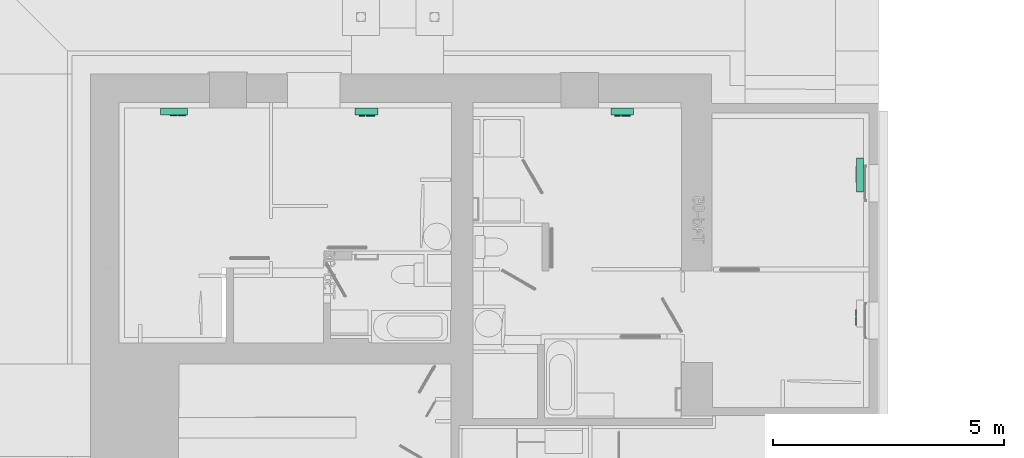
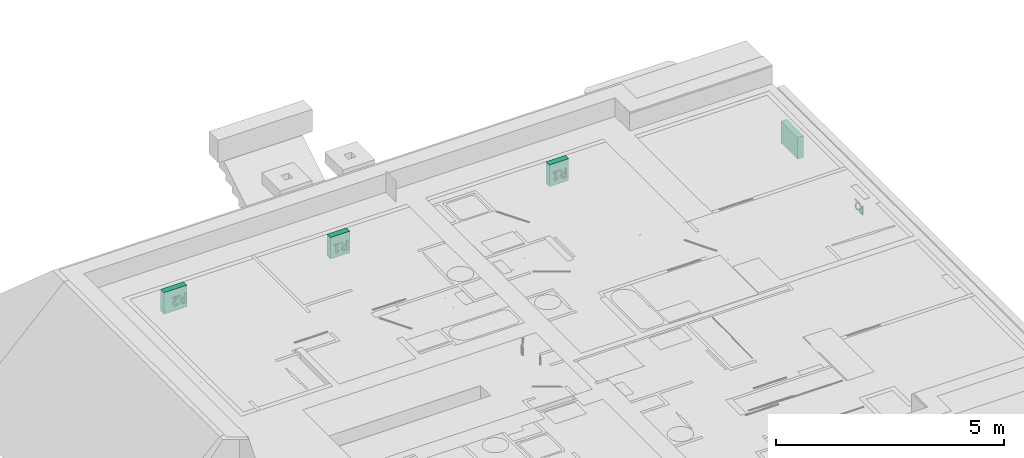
# Not in any storey, part 5 of 22: 8 distribution flow elements.
"""IFC4 model written with IfcOpenShell, lengths in metres."""

import ifcopenshell
import ifcopenshell.guid

model = None  # the IFC model being written
_history = None  # IfcOwnerHistory: only IFC2X3 demands one
_inside = {}  # id of a spatial element -> (the spatial element, [elements in it])
_under = {}  # id of a project, library or spatial element -> (it, [spatial elements below it])
_declared = {}  # id of a project -> (the project, [libraries it declares])
_typed = {}  # id of a type object -> (the type object, [elements of that type])
_made_of = {}  # id of a material, layer set ... -> (it, [elements and type objects made of it])


def new_model(schema):
    """Start an empty IFC model of exactly this schema.

    Asked for "IFC4X3", IfcOpenShell would pick the latest addendum, in which some entities
    have other attributes; the version numbers below select the first issue.
    IFC2X3 requires an IfcOwnerHistory on every rooted entity: one is made here for all.
    """
    global model, _history
    if schema == "IFC4X3":
        model = ifcopenshell.file(schema_version=(4, 3, 0, 0))
    else:
        model = ifcopenshell.file(schema=schema)
    _inside.clear()
    _under.clear()
    _declared.clear()
    _typed.clear()
    _made_of.clear()
    _history = None
    if model.schema == "IFC2X3":
        org = make("IfcOrganization", Name="unknown")
        user = make(
            "IfcPersonAndOrganization",
            ThePerson=make("IfcPerson", FamilyName="unknown"),
            TheOrganization=org,
        )
        app = make(
            "IfcApplication",
            ApplicationDeveloper=org,
            Version="unknown",
            ApplicationFullName="unknown",
            ApplicationIdentifier="unknown",
        )
        _history = make(
            "IfcOwnerHistory",
            OwningUser=user,
            OwningApplication=app,
            ChangeAction="ADDED",
            CreationDate=0,
        )
    return model


def make(cls, **values):
    """One entity of the class cls with the attributes given. An attribute that is None is left unset."""
    return model.create_entity(
        cls, **{name: value for name, value in values.items() if value is not None}
    )


def rooted(cls, **values):
    """An entity with a GlobalId (a new one), such as an element, a storey or a relation."""
    return make(cls, GlobalId=ifcopenshell.guid.new(), OwnerHistory=_history, **values)


def si_unit(unit_type, name, prefix=None):
    """IfcSIUnit, for example si_unit("LENGTHUNIT", "METRE", prefix="MILLI")."""
    return make("IfcSIUnit", UnitType=unit_type, Prefix=prefix, Name=name)


def assignment(units):
    """IfcUnitAssignment: the units of a project."""
    return None if units is None else make("IfcUnitAssignment", Units=units)


def point(xyz):
    """IfcCartesianPoint."""
    return None if xyz is None else make("IfcCartesianPoint", Coordinates=xyz)


def direction(xyz):
    """IfcDirection."""
    return None if xyz is None else make("IfcDirection", DirectionRatios=xyz)


def frame(location, z_axis=None, x_axis=None):
    """IfcAxis2Placement3D, a coordinate frame: its origin and axes. An axis left out is left unset."""
    return make(
        "IfcAxis2Placement3D",
        Location=point(location),
        Axis=direction(z_axis),
        RefDirection=direction(x_axis),
    )


def origin_with_axes():
    """The frame at (0, 0, 0) with the z axis (0, 0, 1) and the x axis (1, 0, 0) written out."""
    return frame((0.0, 0.0, 0.0), z_axis=(0.0, 0.0, 1.0), x_axis=(1.0, 0.0, 0.0))


def place(relative_to, where):
    """IfcLocalPlacement: puts the frame where relative to a parent placement (None: the world)."""
    return make(
        "IfcLocalPlacement", PlacementRelTo=relative_to, RelativePlacement=where
    )


def context(
    kind, dimensions, precision=None, world=None, true_north=None, identifier=None
):
    """IfcGeometricRepresentationContext, for example the 3D "Model" context."""
    return make(
        "IfcGeometricRepresentationContext",
        ContextIdentifier=identifier,
        ContextType=kind,
        CoordinateSpaceDimension=dimensions,
        Precision=precision,
        WorldCoordinateSystem=world,
        TrueNorth=true_north,
    )


def subcontext(parent, identifier, kind, view, scale=None):
    """IfcGeometricRepresentationSubContext, for example "Body" below "Model"."""
    return make(
        "IfcGeometricRepresentationSubContext",
        ContextIdentifier=identifier,
        ContextType=kind,
        ParentContext=parent,
        TargetScale=scale,
        TargetView=view,
    )


def project(units=None, contexts=None):
    """IfcProject with its units and contexts."""
    return rooted(
        "IfcProject",
        Name="project",
        RepresentationContexts=contexts,
        UnitsInContext=assignment(units),
    )


def faces_of(points, faces, orient=None, outer=None):
    """IfcFace entities. A face is a list of loops; a loop is a list of indices into points, from 0.

    orient and outer hold one flag for each loop. By default every Orientation is true, the
    first loop of a face is its IfcFaceOuterBound and the others are IfcFaceBound.
    """
    made = []
    for i, loops in enumerate(faces):
        bounds = []
        for j, loop in enumerate(loops):
            is_outer = j == 0 if outer is None else outer[i][j]
            bounds.append(
                make(
                    "IfcFaceOuterBound" if is_outer else "IfcFaceBound",
                    Bound=make("IfcPolyLoop", Polygon=[points[k] for k in loop]),
                    Orientation=True if orient is None else orient[i][j],
                )
            )
        made.append(make("IfcFace", Bounds=bounds))
    return made


def faceted_brep(points, faces, orient=None, outer=None, voids=None):
    """IfcFacetedBrep: a solid bounded by flat faces; with voids (closed shells), ...WithVoids."""
    shared = [point(p) for p in points]
    hull = make("IfcClosedShell", CfsFaces=faces_of(shared, faces, orient, outer))
    if voids is None:
        return make("IfcFacetedBrep", Outer=hull)
    return make(
        "IfcFacetedBrepWithVoids",
        Outer=hull,
        Voids=[
            make(cls, CfsFaces=faces_of(shared, fs, o, b)) for cls, fs, o, b in voids
        ],
    )


def shape(context_of_items, identifier, shape_type, items):
    """IfcShapeRepresentation: the items that make up one representation, for example the "Body"."""
    return make(
        "IfcShapeRepresentation",
        ContextOfItems=context_of_items,
        RepresentationIdentifier=identifier,
        RepresentationType=shape_type,
        Items=items,
    )


def made_of(thing, what):
    """Note that an element or type object is made of a material, layer set ...; save() writes the relation."""
    if what is not None:
        _made_of.setdefault(what.id(), (what, []))[1].append(thing)
    return thing


def element(
    cls,
    number,
    at=None,
    inside=None,
    cuts=None,
    type_object=None,
    material=None,
    context=None,
    identifier="Body",
    shape_type=None,
    held_by="IfcProductDefinitionShape",
    body=None,
    shapes=None,
    **own,
):
    """One element of the class cls, such as IfcWall. Its Tag is "e" and its number.

    at: its placement. inside: the storey or other place that contains it. cuts: it is an
    opening in that element (IfcRelVoidsElement). A single representation is given by context,
    identifier, shape_type and body (its items); several are given by shapes. held_by: the class
    of the entity that holds the representations. save() writes the other relations.
    """
    e = rooted(cls, Tag="e%d" % number, ObjectPlacement=at, **own)
    if body is not None:
        shapes = [shape(context, identifier, shape_type, body)]
    if shapes is not None:
        e.Representation = make(held_by, Representations=shapes)
    if inside is not None:
        _inside.setdefault(inside.id(), (inside, []))[1].append(e)
    if cuts is not None:
        rooted(
            "IfcRelVoidsElement", RelatingBuildingElement=cuts, RelatedOpeningElement=e
        )
    if type_object is not None:
        _typed.setdefault(type_object.id(), (type_object, []))[1].append(e)
    return made_of(e, material)


def aggregate(whole, parts):
    """IfcRelAggregates: a whole, such as a stair, and the parts it consists of."""
    return rooted("IfcRelAggregates", RelatingObject=whole, RelatedObjects=parts)


def save(model, path):
    """Write the relations noted so far, then the file.

    IfcRelAggregates (storeys below a building ...), IfcRelContainedInSpatialStructure (elements
    in a storey), IfcRelDefinesByType, IfcRelAssociatesMaterial and IfcRelDeclares: one each for
    every whole, place, type object, material and project.
    """
    for whole, parts in _under.values():
        aggregate(whole, parts)
    for where, things in _inside.values():
        rooted(
            "IfcRelContainedInSpatialStructure",
            RelatedElements=things,
            RelatingStructure=where,
        )
    for kind, things in _typed.values():
        rooted("IfcRelDefinesByType", RelatedObjects=things, RelatingType=kind)
    for what, things in _made_of.values():
        rooted("IfcRelAssociatesMaterial", RelatedObjects=things, RelatingMaterial=what)
    for by, libraries in _declared.values():
        rooted("IfcRelDeclares", RelatingContext=by, RelatedDefinitions=libraries)
    model.write(path)


model = new_model("IFC4")

# Units and contexts
model_context = context("Model", 3, precision=1e-05, world=origin_with_axes(), true_north=direction((1.0, 0.0)))
body_context = subcontext(model_context, "Body", "Model", "MODEL_VIEW")
ifc_project = project(units=[si_unit("LENGTHUNIT", "METRE"), si_unit("AREAUNIT", "SQUARE_METRE"), si_unit("VOLUMEUNIT", "CUBIC_METRE"), si_unit("MASSUNIT", "GRAM", prefix="KILO"), si_unit("TIMEUNIT", "SECOND"), si_unit("PLANEANGLEUNIT", "RADIAN"), si_unit("SOLIDANGLEUNIT", "STERADIAN")], contexts=[model_context])

# Distribution flow elements
placement = place(None, origin_with_axes())
element("IfcDistributionFlowElement", 1, at=placement, Name="R2", context=body_context, shape_type="AdvancedBrep", body=[
    faceted_brep([(156.869378, 24.88738, 2.114441), (156.869378, 24.845696, 2.114441), (156.869378, 24.769139, 2.01842), (156.869378, 24.732483, 2.01842), (156.869378, 24.732483, 2.114441), (156.869378, 24.700368, 2.114441), (156.869378, 24.700368, 1.87293), (156.869378, 24.762651, 1.87293), (156.869378, 24.797442, 1.875201), (156.869378, 24.811128, 1.878972), (156.869378, 24.824124, 1.885743), (156.869378, 24.835457, 1.895029), (156.869378, 24.844155, 1.906667), (156.869378, 24.84969, 1.921021), (156.869378, 24.851535, 1.938457), (156.869378, 24.848169, 1.962868), (156.869378, 24.843962, 1.973431), (156.869378, 24.838073, 1.982899), (156.869378, 24.822177, 1.99843), (156.869378, 24.801416, 2.009337), (156.869378, 24.81796, 1.94089), (156.869378, 24.817028, 1.930936), (156.869378, 24.81423, 1.922157), (156.869378, 24.809485, 1.914716), (156.869378, 24.802714, 1.908775), (156.869378, 24.786818, 1.902369), (156.869378, 24.764273, 1.900503), (156.869378, 24.732483, 1.900503), (156.869378, 24.732483, 1.991658), (156.869378, 24.760705, 1.991658), (156.869378, 24.785521, 1.989225), (156.869378, 24.795739, 1.985494), (156.869378, 24.804336, 1.979169), (156.869378, 24.810398, 1.971708), (156.869378, 24.814635, 1.962949), (156.869378, 25.048766, 2.114441), (156.869378, 24.899707, 2.114441), (156.869378, 24.899707, 2.080542), (156.869378, 24.930038, 2.051346), (156.869378, 24.957936, 2.022313), (156.869378, 24.98113, 1.995003), (156.869378, 24.995566, 1.973735), (156.869378, 25.003108, 1.955184), (156.869378, 25.005622, 1.936024), (156.869378, 25.002459, 1.918345), (156.869378, 24.993781, 1.905694), (156.869378, 24.980643, 1.898395), (156.869378, 24.964262, 1.895962), (156.869378, 24.946825, 1.898152), (156.869378, 24.929876, 1.903585), (156.869378, 24.916738, 1.910235), (156.869378, 24.90652, 1.916885), (156.869378, 24.904735, 1.916885), (156.869378, 24.904735, 1.8825), (156.869378, 24.932714, 1.872687), (156.869378, 24.950171, 1.869098), (156.869378, 24.966694, 1.867902), (156.869378, 24.982651, 1.869022), (156.869378, 24.996782, 1.872383), (156.869378, 25.009089, 1.877983), (156.869378, 25.019571, 1.885825), (156.869378, 25.027944, 1.895582), (156.869378, 25.033925, 1.90693), (156.869378, 25.037514, 1.919871), (156.869378, 25.03871, 1.934402), (156.869378, 25.035385, 1.960516), (156.869378, 25.026221, 1.982737), (156.869378, 25.011785, 2.00366), (156.869378, 24.993944, 2.024097), (156.869378, 24.959963, 2.058483), (156.869378, 24.930038, 2.086705), (156.869378, 25.048766, 2.086705), (156.844378, 24.845696, 2.114441), (156.844378, 24.88738, 2.114441), (156.844378, 24.801416, 2.009337), (156.844378, 24.822177, 1.99843), (156.844378, 24.838073, 1.982899), (156.844378, 24.843962, 1.973431), (156.844378, 24.848169, 1.962868), (156.844378, 24.851535, 1.938457), (156.844378, 24.84969, 1.921021), (156.844378, 24.844155, 1.906667), (156.844378, 24.835457, 1.895029), (156.844378, 24.824124, 1.885743), (156.844378, 24.811128, 1.878972), (156.844378, 24.797442, 1.875201), (156.844378, 24.762651, 1.87293), (156.844378, 24.700368, 1.87293), (156.844378, 24.700368, 2.114441), (156.844378, 24.732483, 2.114441), (156.844378, 24.732483, 2.01842), (156.844378, 24.769139, 2.01842), (156.844378, 24.817028, 1.930936), (156.844378, 24.81796, 1.94089), (156.844378, 24.814635, 1.962949), (156.844378, 24.810398, 1.971708), (156.844378, 24.804336, 1.979169), (156.844378, 24.795739, 1.985494), (156.844378, 24.785521, 1.989225), (156.844378, 24.760705, 1.991658), (156.844378, 24.732483, 1.991658), (156.844378, 24.732483, 1.900503), (156.844378, 24.764273, 1.900503), (156.844378, 24.786818, 1.902369), (156.844378, 24.802714, 1.908775), (156.844378, 24.809485, 1.914716), (156.844378, 24.81423, 1.922157), (156.844378, 24.899707, 2.114441), (156.844378, 25.048766, 2.114441), (156.844378, 25.048766, 2.086705), (156.844378, 24.930038, 2.086705), (156.844378, 24.959963, 2.058483), (156.844378, 24.993944, 2.024097), (156.844378, 25.011785, 2.00366), (156.844378, 25.026221, 1.982737), (156.844378, 25.035385, 1.960516), (156.844378, 25.03871, 1.934402), (156.844378, 25.037514, 1.919871), (156.844378, 25.033925, 1.90693), (156.844378, 25.027944, 1.895582), (156.844378, 25.019571, 1.885825), (156.844378, 25.009089, 1.877983), (156.844378, 24.996782, 1.872383), (156.844378, 24.982651, 1.869022), (156.844378, 24.966694, 1.867902), (156.844378, 24.950171, 1.869098), (156.844378, 24.932714, 1.872687), (156.844378, 24.904735, 1.8825), (156.844378, 24.904735, 1.916885), (156.844378, 24.90652, 1.916885), (156.844378, 24.916738, 1.910235), (156.844378, 24.929876, 1.903585), (156.844378, 24.946825, 1.898152), (156.844378, 24.964262, 1.895962), (156.844378, 24.980643, 1.898395), (156.844378, 24.993781, 1.905694), (156.844378, 25.002459, 1.918345), (156.844378, 25.005622, 1.936024), (156.844378, 25.003108, 1.955184), (156.844378, 24.995566, 1.973735), (156.844378, 24.98113, 1.995003), (156.844378, 24.957936, 2.022313), (156.844378, 24.930038, 2.051346), (156.844378, 24.899707, 2.080542)], [[[0, 1, 2, 3, 4, 5, 6, 7, 8, 9, 10, 11, 12, 13, 14, 15, 16, 17, 18, 19], [20, 21, 22, 23, 24, 25, 26, 27, 28, 29, 30, 31, 32, 33, 34]], [[35, 36, 37, 38, 39, 40, 41, 42, 43, 44, 45, 46, 47, 48, 49, 50, 51, 52, 53, 54, 55, 56, 57, 58, 59, 60, 61, 62, 63, 64, 65, 66, 67, 68, 69, 70, 71]], [[72, 73, 74, 75, 76, 77, 78, 79, 80, 81, 82, 83, 84, 85, 86, 87, 88, 89, 90, 91], [92, 93, 94, 95, 96, 97, 98, 99, 100, 101, 102, 103, 104, 105, 106]], [[1, 0, 73, 72]], [[2, 1, 72, 91]], [[3, 2, 91, 90]], [[4, 3, 90, 89]], [[5, 4, 89, 88]], [[6, 5, 88, 87]], [[7, 6, 87, 86]], [[8, 7, 86, 85]], [[9, 8, 85, 84]], [[10, 9, 84, 83]], [[11, 10, 83, 82]], [[12, 11, 82, 81]], [[13, 12, 81, 80]], [[14, 13, 80, 79]], [[15, 14, 79, 78]], [[16, 15, 78, 77]], [[17, 16, 77, 76]], [[18, 17, 76, 75]], [[19, 18, 75, 74]], [[0, 19, 74, 73]], [[21, 20, 93, 92]], [[22, 21, 92, 106]], [[23, 22, 106, 105]], [[24, 23, 105, 104]], [[25, 24, 104, 103]], [[26, 25, 103, 102]], [[27, 26, 102, 101]], [[28, 27, 101, 100]], [[29, 28, 100, 99]], [[30, 29, 99, 98]], [[31, 30, 98, 97]], [[32, 31, 97, 96]], [[33, 32, 96, 95]], [[34, 33, 95, 94]], [[20, 34, 94, 93]], [[107, 108, 109, 110, 111, 112, 113, 114, 115, 116, 117, 118, 119, 120, 121, 122, 123, 124, 125, 126, 127, 128, 129, 130, 131, 132, 133, 134, 135, 136, 137, 138, 139, 140, 141, 142, 143]], [[36, 35, 108, 107]], [[37, 36, 107, 143]], [[38, 37, 143, 142]], [[39, 38, 142, 141]], [[40, 39, 141, 140]], [[41, 40, 140, 139]], [[42, 41, 139, 138]], [[43, 42, 138, 137]], [[44, 43, 137, 136]], [[45, 44, 136, 135]], [[46, 45, 135, 134]], [[47, 46, 134, 133]], [[48, 47, 133, 132]], [[49, 48, 132, 131]], [[50, 49, 131, 130]], [[51, 50, 130, 129]], [[52, 51, 129, 128]], [[53, 52, 128, 127]], [[54, 53, 127, 126]], [[55, 54, 126, 125]], [[56, 55, 125, 124]], [[57, 56, 124, 123]], [[58, 57, 123, 122]], [[59, 58, 122, 121]], [[60, 59, 121, 120]], [[61, 60, 120, 119]], [[62, 61, 119, 118]], [[63, 62, 118, 117]], [[64, 63, 117, 116]], [[65, 64, 116, 115]], [[66, 65, 115, 114]], [[67, 66, 114, 113]], [[68, 67, 113, 112]], [[69, 68, 112, 111]], [[70, 69, 111, 110]], [[71, 70, 110, 109]], [[35, 71, 109, 108]]]),
])
element("IfcDistributionFlowElement", 2, at=placement, Name="Radiateur R3 73x58", context=body_context, shape_type="Brep", body=[
    faceted_brep([(157.019465, 27.589421, 2.193083), (156.869465, 27.589421, 2.193083), (156.869465, 27.589421, 1.613083), (157.019465, 27.589421, 1.613083), (156.869465, 28.319421, 2.193083), (156.869465, 28.319421, 1.613083), (157.019465, 28.319421, 2.193083), (157.019465, 28.319421, 1.613083)], [[[0, 1, 2, 3]], [[1, 4, 5, 2]], [[4, 6, 7, 5]], [[6, 0, 3, 7]], [[2, 5, 7, 3]], [[4, 1, 0, 6]]]),
])
element("IfcDistributionFlowElement", 3, at=placement, Name="Radiateur R1 49x58", context=body_context, shape_type="Brep", body=[
    faceted_brep([(152.046066, 29.254368, 1.73), (151.556066, 29.254368, 1.73), (151.556066, 29.404368, 1.73), (152.046066, 29.404368, 1.73), (152.046066, 29.404368, 2.31), (152.046066, 29.254368, 2.31), (151.556066, 29.254368, 2.31), (151.556066, 29.404368, 2.31)], [[[0, 1, 2, 3]], [[4, 5, 0, 3]], [[6, 7, 2, 1]], [[7, 4, 3, 2]], [[5, 6, 1, 0]], [[6, 5, 4, 7]]]),
])
element("IfcDistributionFlowElement", 4, at=placement, Name="R1#1", context=body_context, shape_type="AdvancedBrep", body=[
    faceted_brep([(151.79193, 29.254368, 2.095116), (151.833614, 29.254368, 2.095116), (151.910171, 29.254368, 1.999096), (151.946828, 29.254368, 1.999096), (151.946828, 29.254368, 2.095116), (151.978943, 29.254368, 2.095116), (151.978943, 29.254368, 1.853606), (151.916659, 29.254368, 1.853606), (151.881868, 29.254368, 1.855876), (151.868182, 29.254368, 1.859647), (151.855186, 29.254368, 1.866419), (151.843853, 29.254368, 1.875705), (151.835155, 29.254368, 1.887343), (151.82962, 29.254368, 1.901697), (151.827775, 29.254368, 1.919133), (151.831141, 29.254368, 1.943544), (151.835348, 29.254368, 1.954107), (151.841238, 29.254368, 1.963575), (151.857133, 29.254368, 1.979105), (151.877894, 29.254368, 1.990013), (151.86135, 29.254368, 1.921566), (151.862283, 29.254368, 1.911611), (151.86508, 29.254368, 1.902832), (151.869825, 29.254368, 1.895392), (151.876596, 29.254368, 1.889451), (151.892492, 29.254368, 1.883044), (151.915037, 29.254368, 1.881179), (151.946828, 29.254368, 1.881179), (151.946828, 29.254368, 1.972334), (151.918605, 29.254368, 1.972334), (151.893789, 29.254368, 1.969901), (151.883571, 29.254368, 1.96617), (151.874974, 29.254368, 1.959844), (151.868912, 29.254368, 1.952383), (151.864675, 29.254368, 1.943625), (151.642871, 29.254368, 2.095116), (151.760626, 29.254368, 2.095116), (151.760626, 29.254368, 2.070463), (151.716833, 29.254368, 2.070463), (151.716833, 29.254368, 1.90859), (151.760626, 29.254368, 1.90859), (151.760626, 29.254368, 1.886532), (151.739074, 29.254368, 1.884768), (151.72405, 29.254368, 1.879476), (151.718815, 29.254368, 1.875163), (151.714866, 29.254368, 1.869278), (151.710831, 29.254368, 1.852795), (151.685691, 29.254368, 1.852795), (151.685691, 29.254368, 2.070463), (151.642871, 29.254368, 2.070463), (151.833614, 29.229368, 2.095116), (151.79193, 29.229368, 2.095116), (151.877894, 29.229368, 1.990013), (151.857133, 29.229368, 1.979105), (151.841238, 29.229368, 1.963575), (151.835348, 29.229368, 1.954107), (151.831141, 29.229368, 1.943544), (151.827775, 29.229368, 1.919133), (151.82962, 29.229368, 1.901697), (151.835155, 29.229368, 1.887343), (151.843853, 29.229368, 1.875705), (151.855186, 29.229368, 1.866419), (151.868182, 29.229368, 1.859647), (151.881868, 29.229368, 1.855876), (151.916659, 29.229368, 1.853606), (151.978943, 29.229368, 1.853606), (151.978943, 29.229368, 2.095116), (151.946828, 29.229368, 2.095116), (151.946828, 29.229368, 1.999096), (151.910171, 29.229368, 1.999096), (151.862283, 29.229368, 1.911611), (151.86135, 29.229368, 1.921566), (151.864675, 29.229368, 1.943625), (151.868912, 29.229368, 1.952383), (151.874974, 29.229368, 1.959844), (151.883571, 29.229368, 1.96617), (151.893789, 29.229368, 1.969901), (151.918605, 29.229368, 1.972334), (151.946828, 29.229368, 1.972334), (151.946828, 29.229368, 1.881179), (151.915037, 29.229368, 1.881179), (151.892492, 29.229368, 1.883044), (151.876596, 29.229368, 1.889451), (151.869825, 29.229368, 1.895392), (151.86508, 29.229368, 1.902832), (151.760626, 29.229368, 2.095116), (151.642871, 29.229368, 2.095116), (151.642871, 29.229368, 2.070463), (151.685691, 29.229368, 2.070463), (151.685691, 29.229368, 1.852795), (151.710831, 29.229368, 1.852795), (151.714866, 29.229368, 1.869278), (151.718815, 29.229368, 1.875163), (151.72405, 29.229368, 1.879476), (151.739074, 29.229368, 1.884768), (151.760626, 29.229368, 1.886532), (151.760626, 29.229368, 1.90859), (151.716833, 29.229368, 1.90859), (151.716833, 29.229368, 2.070463), (151.760626, 29.229368, 2.070463)], [[[0, 1, 2, 3, 4, 5, 6, 7, 8, 9, 10, 11, 12, 13, 14, 15, 16, 17, 18, 19], [20, 21, 22, 23, 24, 25, 26, 27, 28, 29, 30, 31, 32, 33, 34]], [[35, 36, 37, 38, 39, 40, 41, 42, 43, 44, 45, 46, 47, 48, 49]], [[50, 51, 52, 53, 54, 55, 56, 57, 58, 59, 60, 61, 62, 63, 64, 65, 66, 67, 68, 69], [70, 71, 72, 73, 74, 75, 76, 77, 78, 79, 80, 81, 82, 83, 84]], [[1, 0, 51, 50]], [[2, 1, 50, 69]], [[3, 2, 69, 68]], [[4, 3, 68, 67]], [[5, 4, 67, 66]], [[6, 5, 66, 65]], [[7, 6, 65, 64]], [[8, 7, 64, 63]], [[9, 8, 63, 62]], [[10, 9, 62, 61]], [[11, 10, 61, 60]], [[12, 11, 60, 59]], [[13, 12, 59, 58]], [[14, 13, 58, 57]], [[15, 14, 57, 56]], [[16, 15, 56, 55]], [[17, 16, 55, 54]], [[18, 17, 54, 53]], [[19, 18, 53, 52]], [[0, 19, 52, 51]], [[21, 20, 71, 70]], [[22, 21, 70, 84]], [[23, 22, 84, 83]], [[24, 23, 83, 82]], [[25, 24, 82, 81]], [[26, 25, 81, 80]], [[27, 26, 80, 79]], [[28, 27, 79, 78]], [[29, 28, 78, 77]], [[30, 29, 77, 76]], [[31, 30, 76, 75]], [[32, 31, 75, 74]], [[33, 32, 74, 73]], [[34, 33, 73, 72]], [[20, 34, 72, 71]], [[85, 86, 87, 88, 89, 90, 91, 92, 93, 94, 95, 96, 97, 98, 99]], [[36, 35, 86, 85]], [[37, 36, 85, 99]], [[38, 37, 99, 98]], [[39, 38, 98, 97]], [[40, 39, 97, 96]], [[41, 40, 96, 95]], [[42, 41, 95, 94]], [[43, 42, 94, 93]], [[44, 43, 93, 92]], [[45, 44, 92, 91]], [[46, 45, 91, 90]], [[47, 46, 90, 89]], [[48, 47, 89, 88]], [[49, 48, 88, 87]], [[35, 49, 87, 86]]]),
])
element("IfcDistributionFlowElement", 5, at=placement, Name="Radiateur R1 49x58", context=body_context, shape_type="Brep", body=[
    faceted_brep([(146.510066, 29.254368, 1.73), (146.020066, 29.254368, 1.73), (146.020066, 29.404368, 1.73), (146.510066, 29.404368, 1.73), (146.510066, 29.404368, 2.31), (146.510066, 29.254368, 2.31), (146.020066, 29.254368, 2.31), (146.020066, 29.404368, 2.31)], [[[0, 1, 2, 3]], [[4, 5, 0, 3]], [[6, 7, 2, 1]], [[7, 4, 3, 2]], [[5, 6, 1, 0]], [[6, 5, 4, 7]]]),
])
element("IfcDistributionFlowElement", 6, at=placement, Name="R1#1", context=body_context, shape_type="AdvancedBrep", body=[
    faceted_brep([(146.25593, 29.254368, 2.095116), (146.297614, 29.254368, 2.095116), (146.374171, 29.254368, 1.999096), (146.410828, 29.254368, 1.999096), (146.410828, 29.254368, 2.095116), (146.442943, 29.254368, 2.095116), (146.442943, 29.254368, 1.853606), (146.380659, 29.254368, 1.853606), (146.345868, 29.254368, 1.855876), (146.332182, 29.254368, 1.859647), (146.319186, 29.254368, 1.866419), (146.307853, 29.254368, 1.875705), (146.299155, 29.254368, 1.887343), (146.29362, 29.254368, 1.901697), (146.291775, 29.254368, 1.919133), (146.295141, 29.254368, 1.943544), (146.299348, 29.254368, 1.954107), (146.305238, 29.254368, 1.963575), (146.321133, 29.254368, 1.979105), (146.341894, 29.254368, 1.990013), (146.32535, 29.254368, 1.921566), (146.326283, 29.254368, 1.911611), (146.32908, 29.254368, 1.902832), (146.333825, 29.254368, 1.895392), (146.340596, 29.254368, 1.889451), (146.356492, 29.254368, 1.883044), (146.379037, 29.254368, 1.881179), (146.410828, 29.254368, 1.881179), (146.410828, 29.254368, 1.972334), (146.382605, 29.254368, 1.972334), (146.357789, 29.254368, 1.969901), (146.347571, 29.254368, 1.96617), (146.338974, 29.254368, 1.959844), (146.332912, 29.254368, 1.952383), (146.328675, 29.254368, 1.943625), (146.106871, 29.254368, 2.095116), (146.224626, 29.254368, 2.095116), (146.224626, 29.254368, 2.070463), (146.180833, 29.254368, 2.070463), (146.180833, 29.254368, 1.90859), (146.224626, 29.254368, 1.90859), (146.224626, 29.254368, 1.886532), (146.203074, 29.254368, 1.884768), (146.18805, 29.254368, 1.879476), (146.182815, 29.254368, 1.875163), (146.178866, 29.254368, 1.869278), (146.174831, 29.254368, 1.852795), (146.149691, 29.254368, 1.852795), (146.149691, 29.254368, 2.070463), (146.106871, 29.254368, 2.070463), (146.297614, 29.229368, 2.095116), (146.25593, 29.229368, 2.095116), (146.341894, 29.229368, 1.990013), (146.321133, 29.229368, 1.979105), (146.305238, 29.229368, 1.963575), (146.299348, 29.229368, 1.954107), (146.295141, 29.229368, 1.943544), (146.291775, 29.229368, 1.919133), (146.29362, 29.229368, 1.901697), (146.299155, 29.229368, 1.887343), (146.307853, 29.229368, 1.875705), (146.319186, 29.229368, 1.866419), (146.332182, 29.229368, 1.859647), (146.345868, 29.229368, 1.855876), (146.380659, 29.229368, 1.853606), (146.442943, 29.229368, 1.853606), (146.442943, 29.229368, 2.095116), (146.410828, 29.229368, 2.095116), (146.410828, 29.229368, 1.999096), (146.374171, 29.229368, 1.999096), (146.326283, 29.229368, 1.911611), (146.32535, 29.229368, 1.921566), (146.328675, 29.229368, 1.943625), (146.332912, 29.229368, 1.952383), (146.338974, 29.229368, 1.959844), (146.347571, 29.229368, 1.96617), (146.357789, 29.229368, 1.969901), (146.382605, 29.229368, 1.972334), (146.410828, 29.229368, 1.972334), (146.410828, 29.229368, 1.881179), (146.379037, 29.229368, 1.881179), (146.356492, 29.229368, 1.883044), (146.340596, 29.229368, 1.889451), (146.333825, 29.229368, 1.895392), (146.32908, 29.229368, 1.902832), (146.224626, 29.229368, 2.095116), (146.106871, 29.229368, 2.095116), (146.106871, 29.229368, 2.070463), (146.149691, 29.229368, 2.070463), (146.149691, 29.229368, 1.852795), (146.174831, 29.229368, 1.852795), (146.178866, 29.229368, 1.869278), (146.182815, 29.229368, 1.875163), (146.18805, 29.229368, 1.879476), (146.203074, 29.229368, 1.884768), (146.224626, 29.229368, 1.886532), (146.224626, 29.229368, 1.90859), (146.180833, 29.229368, 1.90859), (146.180833, 29.229368, 2.070463), (146.224626, 29.229368, 2.070463)], [[[0, 1, 2, 3, 4, 5, 6, 7, 8, 9, 10, 11, 12, 13, 14, 15, 16, 17, 18, 19], [20, 21, 22, 23, 24, 25, 26, 27, 28, 29, 30, 31, 32, 33, 34]], [[35, 36, 37, 38, 39, 40, 41, 42, 43, 44, 45, 46, 47, 48, 49]], [[50, 51, 52, 53, 54, 55, 56, 57, 58, 59, 60, 61, 62, 63, 64, 65, 66, 67, 68, 69], [70, 71, 72, 73, 74, 75, 76, 77, 78, 79, 80, 81, 82, 83, 84]], [[1, 0, 51, 50]], [[2, 1, 50, 69]], [[3, 2, 69, 68]], [[4, 3, 68, 67]], [[5, 4, 67, 66]], [[6, 5, 66, 65]], [[7, 6, 65, 64]], [[8, 7, 64, 63]], [[9, 8, 63, 62]], [[10, 9, 62, 61]], [[11, 10, 61, 60]], [[12, 11, 60, 59]], [[13, 12, 59, 58]], [[14, 13, 58, 57]], [[15, 14, 57, 56]], [[16, 15, 56, 55]], [[17, 16, 55, 54]], [[18, 17, 54, 53]], [[19, 18, 53, 52]], [[0, 19, 52, 51]], [[21, 20, 71, 70]], [[22, 21, 70, 84]], [[23, 22, 84, 83]], [[24, 23, 83, 82]], [[25, 24, 82, 81]], [[26, 25, 81, 80]], [[27, 26, 80, 79]], [[28, 27, 79, 78]], [[29, 28, 78, 77]], [[30, 29, 77, 76]], [[31, 30, 76, 75]], [[32, 31, 75, 74]], [[33, 32, 74, 73]], [[34, 33, 73, 72]], [[20, 34, 72, 71]], [[85, 86, 87, 88, 89, 90, 91, 92, 93, 94, 95, 96, 97, 98, 99]], [[36, 35, 86, 85]], [[37, 36, 85, 99]], [[38, 37, 99, 98]], [[39, 38, 98, 97]], [[40, 39, 97, 96]], [[41, 40, 96, 95]], [[42, 41, 95, 94]], [[43, 42, 94, 93]], [[44, 43, 93, 92]], [[45, 44, 92, 91]], [[46, 45, 91, 90]], [[47, 46, 90, 89]], [[48, 47, 89, 88]], [[49, 48, 88, 87]], [[35, 49, 87, 86]]]),
])
element("IfcDistributionFlowElement", 7, at=placement, Name="Radiateur R2 73x58", context=body_context, shape_type="Brep", body=[
    faceted_brep([(142.389927, 29.404368, 2.31), (142.389927, 29.254368, 2.31), (142.389927, 29.254368, 1.73), (142.389927, 29.404368, 1.73), (141.809927, 29.254368, 2.31), (141.809927, 29.254368, 1.73), (141.809927, 29.404368, 1.73), (141.809927, 29.404368, 2.31)], [[[0, 1, 2, 3]], [[1, 4, 5, 2]], [[2, 5, 6, 3]], [[7, 0, 3, 6]], [[4, 1, 0, 7]], [[4, 7, 6, 5]]]),
])
element("IfcDistributionFlowElement", 8, at=placement, Name="R2", context=body_context, shape_type="AdvancedBrep", body=[
    faceted_brep([(142.175149, 29.254368, 2.114441), (142.216834, 29.254368, 2.114441), (142.293391, 29.254368, 2.01842), (142.330047, 29.254368, 2.01842), (142.330047, 29.254368, 2.114441), (142.362162, 29.254368, 2.114441), (142.362162, 29.254368, 1.87293), (142.299878, 29.254368, 1.87293), (142.265087, 29.254368, 1.875201), (142.251402, 29.254368, 1.878972), (142.238406, 29.254368, 1.885743), (142.227072, 29.254368, 1.895029), (142.218375, 29.254368, 1.906667), (142.21284, 29.254368, 1.921021), (142.210995, 29.254368, 1.938457), (142.21436, 29.254368, 1.962868), (142.218567, 29.254368, 1.973431), (142.224457, 29.254368, 1.982899), (142.240352, 29.254368, 1.99843), (142.261113, 29.254368, 2.009337), (142.244569, 29.254368, 1.94089), (142.245502, 29.254368, 1.930936), (142.2483, 29.254368, 1.922157), (142.253044, 29.254368, 1.914716), (142.259816, 29.254368, 1.908775), (142.275711, 29.254368, 1.902369), (142.298256, 29.254368, 1.900503), (142.330047, 29.254368, 1.900503), (142.330047, 29.254368, 1.991658), (142.301825, 29.254368, 1.991658), (142.277009, 29.254368, 1.989225), (142.26679, 29.254368, 1.985494), (142.258194, 29.254368, 1.979169), (142.252132, 29.254368, 1.971708), (142.247894, 29.254368, 1.962949), (142.013763, 29.254368, 2.114441), (142.162822, 29.254368, 2.114441), (142.162822, 29.254368, 2.080542), (142.132491, 29.254368, 2.051346), (142.104594, 29.254368, 2.022313), (142.081399, 29.254368, 1.995003), (142.066964, 29.254368, 1.973735), (142.059422, 29.254368, 1.955184), (142.056908, 29.254368, 1.936024), (142.060071, 29.254368, 1.918345), (142.068748, 29.254368, 1.905694), (142.081886, 29.254368, 1.898395), (142.098268, 29.254368, 1.895962), (142.115704, 29.254368, 1.898152), (142.132654, 29.254368, 1.903585), (142.145792, 29.254368, 1.910235), (142.15601, 29.254368, 1.916885), (142.157794, 29.254368, 1.916885), (142.157794, 29.254368, 1.8825), (142.129815, 29.254368, 1.872687), (142.112359, 29.254368, 1.869098), (142.095835, 29.254368, 1.867902), (142.079879, 29.254368, 1.869022), (142.065748, 29.254368, 1.872383), (142.053441, 29.254368, 1.877983), (142.042959, 29.254368, 1.885825), (142.034585, 29.254368, 1.895582), (142.028604, 29.254368, 1.90693), (142.025016, 29.254368, 1.919871), (142.02382, 29.254368, 1.934402), (142.027145, 29.254368, 1.960516), (142.036309, 29.254368, 1.982737), (142.050744, 29.254368, 2.00366), (142.068586, 29.254368, 2.024097), (142.102566, 29.254368, 2.058483), (142.132491, 29.254368, 2.086705), (142.013763, 29.254368, 2.086705), (142.216834, 29.229368, 2.114441), (142.175149, 29.229368, 2.114441), (142.261113, 29.229368, 2.009337), (142.240352, 29.229368, 1.99843), (142.224457, 29.229368, 1.982899), (142.218567, 29.229368, 1.973431), (142.21436, 29.229368, 1.962868), (142.210995, 29.229368, 1.938457), (142.21284, 29.229368, 1.921021), (142.218375, 29.229368, 1.906667), (142.227072, 29.229368, 1.895029), (142.238406, 29.229368, 1.885743), (142.251402, 29.229368, 1.878972), (142.265087, 29.229368, 1.875201), (142.299878, 29.229368, 1.87293), (142.362162, 29.229368, 1.87293), (142.362162, 29.229368, 2.114441), (142.330047, 29.229368, 2.114441), (142.330047, 29.229368, 2.01842), (142.293391, 29.229368, 2.01842), (142.245502, 29.229368, 1.930936), (142.244569, 29.229368, 1.94089), (142.247894, 29.229368, 1.962949), (142.252132, 29.229368, 1.971708), (142.258194, 29.229368, 1.979169), (142.26679, 29.229368, 1.985494), (142.277009, 29.229368, 1.989225), (142.301825, 29.229368, 1.991658), (142.330047, 29.229368, 1.991658), (142.330047, 29.229368, 1.900503), (142.298256, 29.229368, 1.900503), (142.275711, 29.229368, 1.902369), (142.259816, 29.229368, 1.908775), (142.253044, 29.229368, 1.914716), (142.2483, 29.229368, 1.922157), (142.162822, 29.229368, 2.114441), (142.013763, 29.229368, 2.114441), (142.013763, 29.229368, 2.086705), (142.132491, 29.229368, 2.086705), (142.102566, 29.229368, 2.058483), (142.068586, 29.229368, 2.024097), (142.050744, 29.229368, 2.00366), (142.036309, 29.229368, 1.982737), (142.027145, 29.229368, 1.960516), (142.02382, 29.229368, 1.934402), (142.025016, 29.229368, 1.919871), (142.028604, 29.229368, 1.90693), (142.034585, 29.229368, 1.895582), (142.042959, 29.229368, 1.885825), (142.053441, 29.229368, 1.877983), (142.065748, 29.229368, 1.872383), (142.079879, 29.229368, 1.869022), (142.095835, 29.229368, 1.867902), (142.112359, 29.229368, 1.869098), (142.129815, 29.229368, 1.872687), (142.157794, 29.229368, 1.8825), (142.157794, 29.229368, 1.916885), (142.15601, 29.229368, 1.916885), (142.145792, 29.229368, 1.910235), (142.132654, 29.229368, 1.903585), (142.115704, 29.229368, 1.898152), (142.098268, 29.229368, 1.895962), (142.081886, 29.229368, 1.898395), (142.068748, 29.229368, 1.905694), (142.060071, 29.229368, 1.918345), (142.056908, 29.229368, 1.936024), (142.059422, 29.229368, 1.955184), (142.066964, 29.229368, 1.973735), (142.081399, 29.229368, 1.995003), (142.104594, 29.229368, 2.022313), (142.132491, 29.229368, 2.051346), (142.162822, 29.229368, 2.080542)], [[[0, 1, 2, 3, 4, 5, 6, 7, 8, 9, 10, 11, 12, 13, 14, 15, 16, 17, 18, 19], [20, 21, 22, 23, 24, 25, 26, 27, 28, 29, 30, 31, 32, 33, 34]], [[35, 36, 37, 38, 39, 40, 41, 42, 43, 44, 45, 46, 47, 48, 49, 50, 51, 52, 53, 54, 55, 56, 57, 58, 59, 60, 61, 62, 63, 64, 65, 66, 67, 68, 69, 70, 71]], [[72, 73, 74, 75, 76, 77, 78, 79, 80, 81, 82, 83, 84, 85, 86, 87, 88, 89, 90, 91], [92, 93, 94, 95, 96, 97, 98, 99, 100, 101, 102, 103, 104, 105, 106]], [[1, 0, 73, 72]], [[2, 1, 72, 91]], [[3, 2, 91, 90]], [[4, 3, 90, 89]], [[5, 4, 89, 88]], [[6, 5, 88, 87]], [[7, 6, 87, 86]], [[8, 7, 86, 85]], [[9, 8, 85, 84]], [[10, 9, 84, 83]], [[11, 10, 83, 82]], [[12, 11, 82, 81]], [[13, 12, 81, 80]], [[14, 13, 80, 79]], [[15, 14, 79, 78]], [[16, 15, 78, 77]], [[17, 16, 77, 76]], [[18, 17, 76, 75]], [[19, 18, 75, 74]], [[0, 19, 74, 73]], [[21, 20, 93, 92]], [[22, 21, 92, 106]], [[23, 22, 106, 105]], [[24, 23, 105, 104]], [[25, 24, 104, 103]], [[26, 25, 103, 102]], [[27, 26, 102, 101]], [[28, 27, 101, 100]], [[29, 28, 100, 99]], [[30, 29, 99, 98]], [[31, 30, 98, 97]], [[32, 31, 97, 96]], [[33, 32, 96, 95]], [[34, 33, 95, 94]], [[20, 34, 94, 93]], [[107, 108, 109, 110, 111, 112, 113, 114, 115, 116, 117, 118, 119, 120, 121, 122, 123, 124, 125, 126, 127, 128, 129, 130, 131, 132, 133, 134, 135, 136, 137, 138, 139, 140, 141, 142, 143]], [[36, 35, 108, 107]], [[37, 36, 107, 143]], [[38, 37, 143, 142]], [[39, 38, 142, 141]], [[40, 39, 141, 140]], [[41, 40, 140, 139]], [[42, 41, 139, 138]], [[43, 42, 138, 137]], [[44, 43, 137, 136]], [[45, 44, 136, 135]], [[46, 45, 135, 134]], [[47, 46, 134, 133]], [[48, 47, 133, 132]], [[49, 48, 132, 131]], [[50, 49, 131, 130]], [[51, 50, 130, 129]], [[52, 51, 129, 128]], [[53, 52, 128, 127]], [[54, 53, 127, 126]], [[55, 54, 126, 125]], [[56, 55, 125, 124]], [[57, 56, 124, 123]], [[58, 57, 123, 122]], [[59, 58, 122, 121]], [[60, 59, 121, 120]], [[61, 60, 120, 119]], [[62, 61, 119, 118]], [[63, 62, 118, 117]], [[64, 63, 117, 116]], [[65, 64, 116, 115]], [[66, 65, 115, 114]], [[67, 66, 114, 113]], [[68, 67, 113, 112]], [[69, 68, 112, 111]], [[70, 69, 111, 110]], [[71, 70, 110, 109]], [[35, 71, 109, 108]]]),
])

save(model, "model.ifc")
